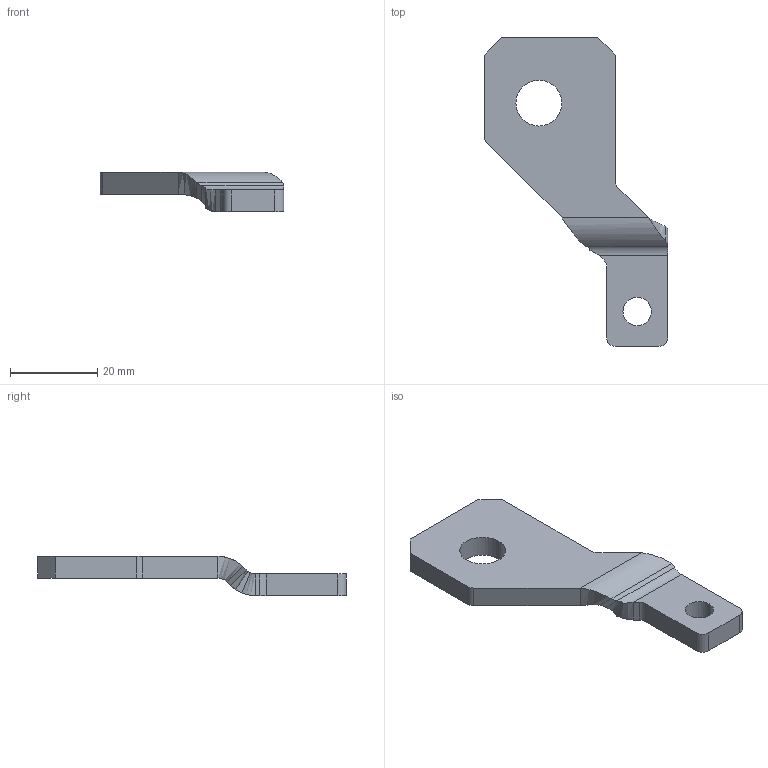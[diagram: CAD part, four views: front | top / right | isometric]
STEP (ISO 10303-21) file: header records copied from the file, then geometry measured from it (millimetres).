
FILE_DESCRIPTION (( 'STEP AP203' ), '1' );
FILE_NAME ('8LD.580.1041-M5-160.STEP', '2024-09-19T12:19:10', ( 'A' ), ( '' ), 'SwSTEP 2.0', 'SolidWorks 2018', '' );
FILE_SCHEMA (( 'CONFIG_CONTROL_DESIGN' ));
Length unit declared in the file: millimetre
Products named in the file (1): 8LD.580.1041-M5-160
Bounding box: 42 x 70.7 x 9 mm (x, y, z)
Volume: 7234.7 mm3; surface area: 4149.6 mm2
Topology: 1 solids, 1 shells, 40 faces, 98 edges, 60 vertices
Faces by surface type: plane 21, cylinder 14, bspline 5
Entity records: 1290 total; most frequent: CARTESIAN_POINT 299, ORIENTED_EDGE 196, DIRECTION 175, EDGE_CURVE 98, VERTEX_POINT 60, AXIS2_PLACEMENT_3D 60, LINE 55, VECTOR 55
